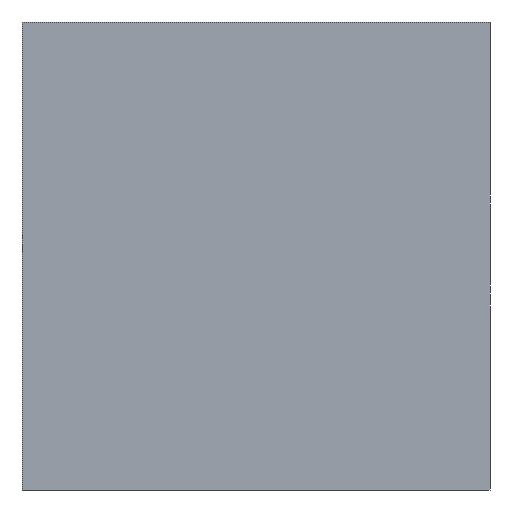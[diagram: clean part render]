
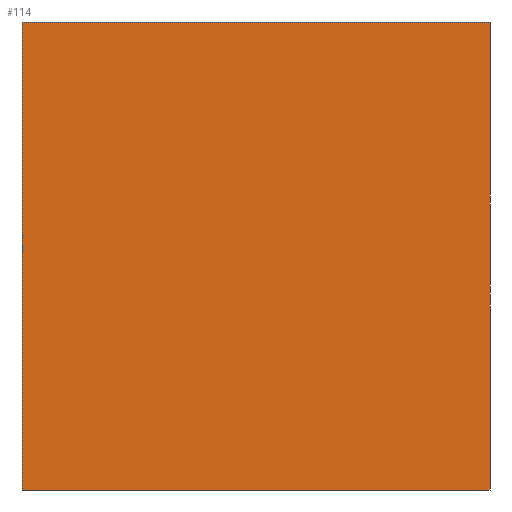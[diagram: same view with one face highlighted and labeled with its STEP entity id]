
A CAD part, left-side view. The second image highlights one B-rep face of the part: STEP entity #114.
In plain terms, the highlighted planar face has unit normal (-1, 0, 0).
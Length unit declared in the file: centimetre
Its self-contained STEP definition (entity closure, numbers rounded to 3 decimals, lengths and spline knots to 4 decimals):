
#43 = EDGE_LOOP ( 'NONE', ( #393, #775, #1108, #334 ) ) ;
#114 = ADVANCED_FACE ( 'NONE', ( #419 ), #830, .F. ) ;
#232 = LINE ( 'NONE', #746, #275 ) ;
#275 = VECTOR ( 'NONE', #738, 100. ) ;
#291 = EDGE_CURVE ( 'NONE', #377, #671, #1211, .T. ) ;
#316 = DIRECTION ( 'NONE',  ( 1., 0., 0. ) ) ;
#334 = ORIENTED_EDGE ( 'NONE', *, *, #597, .T. ) ;
#377 = VERTEX_POINT ( 'NONE', #1250 ) ;
#393 = ORIENTED_EDGE ( 'NONE', *, *, #1176, .T. ) ;
#419 = FACE_OUTER_BOUND ( 'NONE', #43, .T. ) ;
#427 = VERTEX_POINT ( 'NONE', #818 ) ;
#597 = EDGE_CURVE ( 'NONE', #427, #889, #232, .T. ) ;
#606 = EDGE_CURVE ( 'NONE', #427, #377, #646, .T. ) ;
#646 = LINE ( 'NONE', #1056, #1325 ) ;
#671 = VERTEX_POINT ( 'NONE', #1277 ) ;
#738 = DIRECTION ( 'NONE',  ( 0., 0., -1. ) ) ;
#746 = CARTESIAN_POINT ( 'NONE',  ( 0., 1000., 1000. ) ) ;
#752 = AXIS2_PLACEMENT_3D ( 'NONE', #1151, #316, #1049 ) ;
#775 = ORIENTED_EDGE ( 'NONE', *, *, #291, .F. ) ;
#818 = CARTESIAN_POINT ( 'NONE',  ( 0., 1000., 1000. ) ) ;
#830 = PLANE ( 'NONE',  #752 ) ;
#834 = VECTOR ( 'NONE', #893, 100. ) ;
#889 = VERTEX_POINT ( 'NONE', #1125 ) ;
#893 = DIRECTION ( 'NONE',  ( 0., -1., 0. ) ) ;
#917 = CARTESIAN_POINT ( 'NONE',  ( 0., 0., 1000. ) ) ;
#973 = CARTESIAN_POINT ( 'NONE',  ( 0., 1000., 0. ) ) ;
#1049 = DIRECTION ( 'NONE',  ( 0., 0., -1. ) ) ;
#1056 = CARTESIAN_POINT ( 'NONE',  ( 0., 1000., 1000. ) ) ;
#1098 = LINE ( 'NONE', #973, #834 ) ;
#1108 = ORIENTED_EDGE ( 'NONE', *, *, #606, .F. ) ;
#1125 = CARTESIAN_POINT ( 'NONE',  ( 0., 1000., 0. ) ) ;
#1151 = CARTESIAN_POINT ( 'NONE',  ( 0., 1000., 1000. ) ) ;
#1176 = EDGE_CURVE ( 'NONE', #889, #671, #1098, .T. ) ;
#1211 = LINE ( 'NONE', #917, #1251 ) ;
#1250 = CARTESIAN_POINT ( 'NONE',  ( 0., 0., 1000. ) ) ;
#1251 = VECTOR ( 'NONE', #1337, 100. ) ;
#1277 = CARTESIAN_POINT ( 'NONE',  ( 0., 0., 0. ) ) ;
#1286 = DIRECTION ( 'NONE',  ( 0., -1., 0. ) ) ;
#1325 = VECTOR ( 'NONE', #1286, 100. ) ;
#1337 = DIRECTION ( 'NONE',  ( 0., 0., -1. ) ) ;
